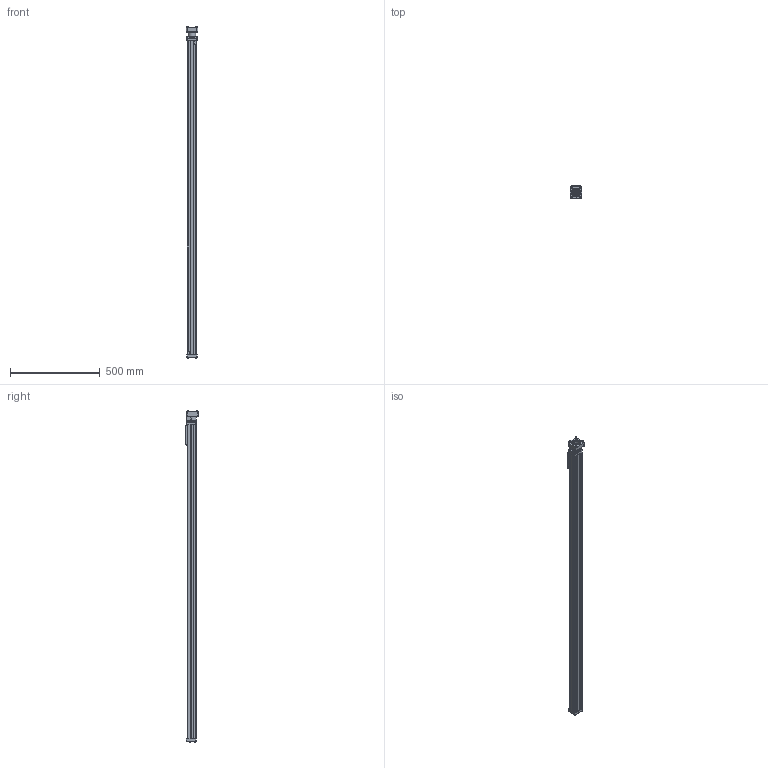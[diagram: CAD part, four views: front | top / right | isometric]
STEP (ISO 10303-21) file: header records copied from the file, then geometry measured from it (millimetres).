
FILE_DESCRIPTION (( 'STEP AP203' ), '1' );
FILE_NAME ('B3S10_BNM10_SM1630.000_B3S-477234-1.step', '2024-12-20T13:15:29', ( '' ), ( '' ), 'SwSTEP 2.0', 'SolidWorks 2024', '' );
FILE_SCHEMA (( 'CONFIG_CONTROL_DESIGN' ));
Length unit declared in the file: inch
Products named in the file (5): tempJoin0_45109049_B3S10_BNM10_SM1630.000_B3S-477234-1; B3S10_BNM10_SM1630.000_B3S-477234-1; Base_B3S10_BNM10_SM1630.000_B3S-477234-1; tempJoin0_45109053_B3S10_BNM10_SM1630.000_B3S-477234-1; 44109070_B3S10_BNM10_SM1630.000_B3S-477234-1
Assembly tree (4 placements, depth 2):
  B3S10_BNM10_SM1630.000_B3S-477234-1
    44109070_B3S10_BNM10_SM1630.000_B3S-477234-1
    tempJoin0_45109053_B3S10_BNM10_SM1630.000_B3S-477234-1
    tempJoin0_45109049_B3S10_BNM10_SM1630.000_B3S-477234-1
    Base_B3S10_BNM10_SM1630.000_B3S-477234-1
Bounding box: 66.04 x 72.06 x 1845.84 mm (x, y, z)
Volume: 4176105.5 mm3; surface area: 692896.1 mm2
Topology: 8 solids, 12 shells, 1274 faces, 3131 edges, 2013 vertices
Faces by surface type: plane 844, cylinder 254, bspline 79, cone 66, torus 23, sphere 8
Full cylindrical faces by diameter (mm): 2.921 x4, 3.299 x4, 3.3 x5, 3.956 x2, 3.969 x2, 4 x13, 4.013 x2, 4.2 x12, 4.572 x1, 4.826 x4, 5 x8, 5.5 x8, 5.588 x4, 5.613 x4, 5.69 x4, 6 x4, 6.02 x2, 6.35 x1, 7 x9, 7.874 x4, 7.884 x1, 8.5 x8, 9.5 x4, 9.652 x4, 12.954 x1, 22.015 x1, 30.48 x1, 37.084 x1, 50.051 x1
Entity records: 41141 total; most frequent: CARTESIAN_POINT 11886, DIRECTION 5746, ORIENTED_EDGE 5734, EDGE_CURVE 2867, VERTEX_POINT 1941, AXIS2_PLACEMENT_3D 1922, VECTOR 1902, LINE 1902
